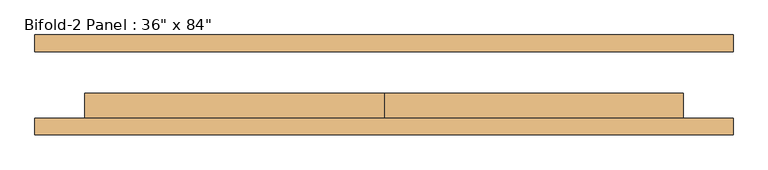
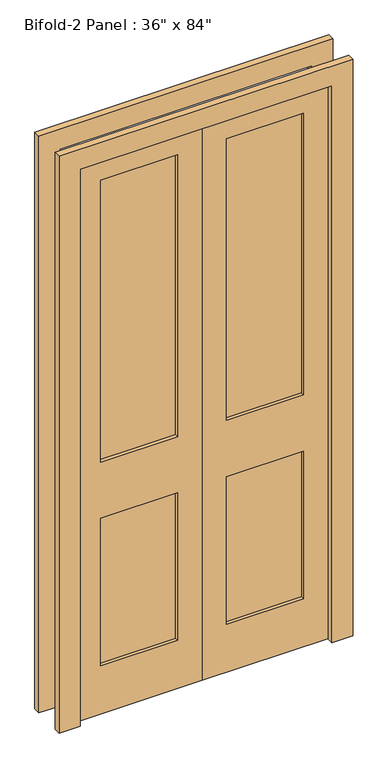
"""IFC4 building model written with IfcOpenShell, lengths in millimetres: door geometry."""

from ifc_helpers import new_model, si_unit, frame, origin, place, context, project, spatial, polyline, outline, extrude, source, transform, mapped, element, save


def door_aa7f62d4(model_context):
    return source(origin(), model_context, "Body", "SweptSolid", [
        extrude(outline(polyline([(2133.6, 0.0), (2133.6, -457.2), (0.0, -457.2), (0.0, 0.0), (2133.6, 0.0)]), holes=[polyline([(2044.7, -88.9), (965.11872, -88.9), (965.11872, -368.3), (2044.7, -368.3), (2044.7, -88.9)]), polyline([(749.3, -88.9), (184.15, -88.9), (184.15, -368.3), (749.3, -368.3), (749.3, -88.9)])]), frame((0.0, -50.8, 0.0), z_axis=(0.0, 1.0, 0.0), x_axis=(0.0, 0.0, 1.0)), (0.0, 0.0, 1.0), 38.1),
        extrude(outline(polyline([(-88.9, -25.4), (-88.9, -38.1), (-368.3, -38.1), (-368.3, -25.4), (-88.9, -25.4)])), frame((0.0, 0.0, 965.11872), z_axis=(0.0, 0.0, 1.0), x_axis=(1.0, 0.0, 0.0)), (0.0, 0.0, 1.0), 1079.58128),
        extrude(outline(polyline([(-88.9, -25.4), (-88.9, -38.1), (-368.3, -38.1), (-368.3, -25.4), (-88.9, -25.4)])), frame((0.0, 0.0, 184.15), z_axis=(0.0, 0.0, 1.0), x_axis=(1.0, 0.0, 0.0)), (0.0, 0.0, 1.0), 565.15),
        extrude(outline(polyline([(368.3, -25.4), (368.3, -38.1), (88.9, -38.1), (88.9, -25.4), (368.3, -25.4)])), frame((0.0, 0.0, 965.11872), z_axis=(0.0, 0.0, 1.0), x_axis=(1.0, 0.0, 0.0)), (0.0, 0.0, 1.0), 1079.58128),
        extrude(outline(polyline([(368.3, -25.4), (368.3, -38.1), (88.9, -38.1), (88.9, -25.4), (368.3, -25.4)])), frame((0.0, 0.0, 184.15), z_axis=(0.0, 0.0, 1.0), x_axis=(1.0, 0.0, 0.0)), (0.0, 0.0, 1.0), 565.15),
        extrude(outline(polyline([(2209.8, -533.4), (0.0, -533.4), (0.0, -457.2), (2133.6, -457.2), (2133.6, 457.2), (0.0, 457.2), (0.0, 533.4), (2209.8, 533.4), (2209.8, -533.4)])), frame((0.0, -76.2, 0.0), z_axis=(0.0, 1.0, 0.0), x_axis=(0.0, 0.0, 1.0)), (0.0, 0.0, 1.0), 25.4),
        extrude(outline(polyline([(2209.8, 533.4), (2209.8, -533.4), (0.0, -533.4), (0.0, -457.2), (2133.6, -457.2), (2133.6, 457.2), (0.0, 457.2), (0.0, 533.4), (2209.8, 533.4)])), frame((0.0, 50.8, 0.0), z_axis=(0.0, 1.0, 0.0), x_axis=(0.0, 0.0, 1.0)), (0.0, 0.0, 1.0), 25.4),
        extrude(outline(polyline([(2133.6, 457.2), (2133.6, 0.0), (0.0, 0.0), (0.0, 457.2), (2133.6, 457.2)]), holes=[polyline([(2044.7, 88.9), (2044.7, 368.3), (965.11872, 368.3), (965.11872, 88.9), (2044.7, 88.9)]), polyline([(749.3, 88.9), (749.3, 368.3), (184.15, 368.3), (184.15, 88.9), (749.3, 88.9)])]), frame((0.0, -50.8, 0.0), z_axis=(0.0, 1.0, 0.0), x_axis=(0.0, 0.0, 1.0)), (0.0, 0.0, 1.0), 38.1),
    ])


if __name__ == "__main__":
    model = new_model("IFC4")
    model_context = context("Model", 3, world=origin())
    ifc_project = project(units=[si_unit("LENGTHUNIT", "METRE", prefix="MILLI")], contexts=[model_context])
    site = spatial("IfcSite", under=ifc_project)
    building = spatial("IfcBuilding", under=site)
    placement = place(None, origin())
    door_shape = door_aa7f62d4(model_context)
    element("IfcDoor", 1, ObjectType="Bifold-2 Panel : 36\" x 84\"", at=placement, inside=building, context=model_context, shape_type="MappedRepresentation", body=[
        mapped(door_shape, transform((0.0, 0.0, 0.0), x_axis=(1.0, 0.0, 0.0), y_axis=(0.0, 1.0, 0.0), z_axis=(0.0, 0.0, 1.0))),
    ])
    save(model, "model.ifc")
